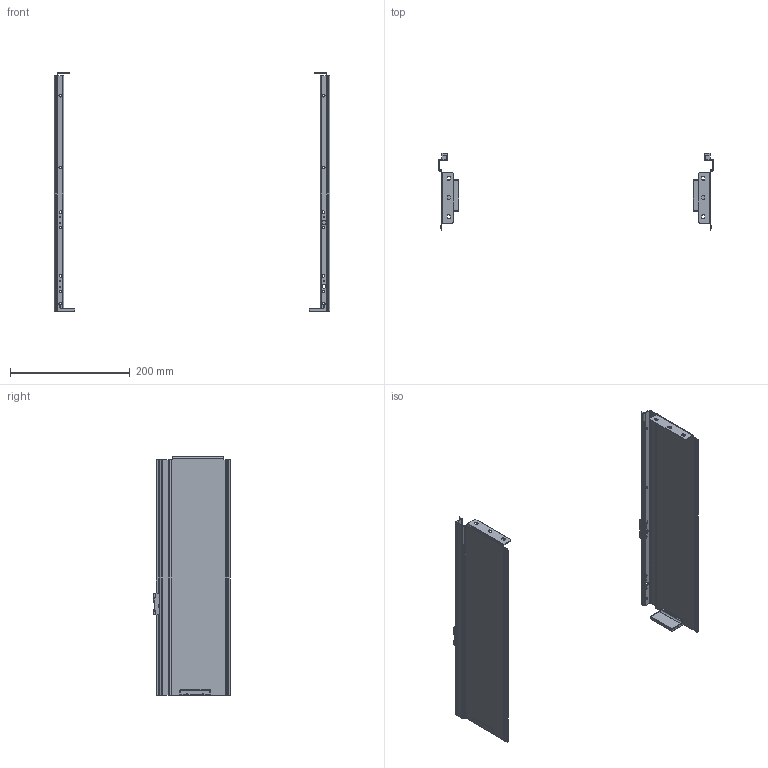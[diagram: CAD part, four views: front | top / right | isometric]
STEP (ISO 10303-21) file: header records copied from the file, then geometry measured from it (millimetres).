
FILE_DESCRIPTION(/* description */ (''),/* implementation_level */ '2;1');
FILE_NAME(/* name */ 'C:\Users\dmitruk\Documents\WORK\\X2\041D0410041F042004100412041B042F042E042904180415\X0\\ULTRA SLIM\\X2\0411043E043A043E04320438043D043A0438\X0\ Q-Type\Боковинки Q-Type-400 средний.stp',/* time_stamp */ '2022-07-28T10:09:06+03:00',/* author */ ('dmitruk'),/* organization */ (''),/* preprocessor_version */ 'ST-DEVELOPER v16.5',/* originating_system */ 'Autodesk Inventor 2017',/* authorisation */ '');
FILE_SCHEMA (('AUTOMOTIVE_DESIGN { 1 0 10303 214 3 1 1 }'));
Length unit declared in the file: millimetre
Products named in the file (3): Боковинки Q-Type; Боковина USLIM; Боковина USLIM L
Assembly tree (2 placements, depth 2):
  Боковинки Q-Type
    Боковина USLIM
    Боковина USLIM L
Bounding box: 459.6 x 128.4 x 398 mm (x, y, z)
Volume: 176426 mm3; surface area: 251845 mm2
Topology: 8 solids, 8 shells, 480 faces, 1328 edges, 868 vertices
Faces by surface type: plane 210, cylinder 198, torus 36, bspline 28, sphere 8
Full cylindrical faces by diameter (mm): 2 x6, 4.2 x18, 6 x2, 7 x2, 8 x4
Entity records: 16200 total; most frequent: CARTESIAN_POINT 3154, DIRECTION 2702, ORIENTED_EDGE 2548, EDGE_CURVE 1274, AXIS2_PLACEMENT_3D 979, VERTEX_POINT 846, LINE 744, VECTOR 744
